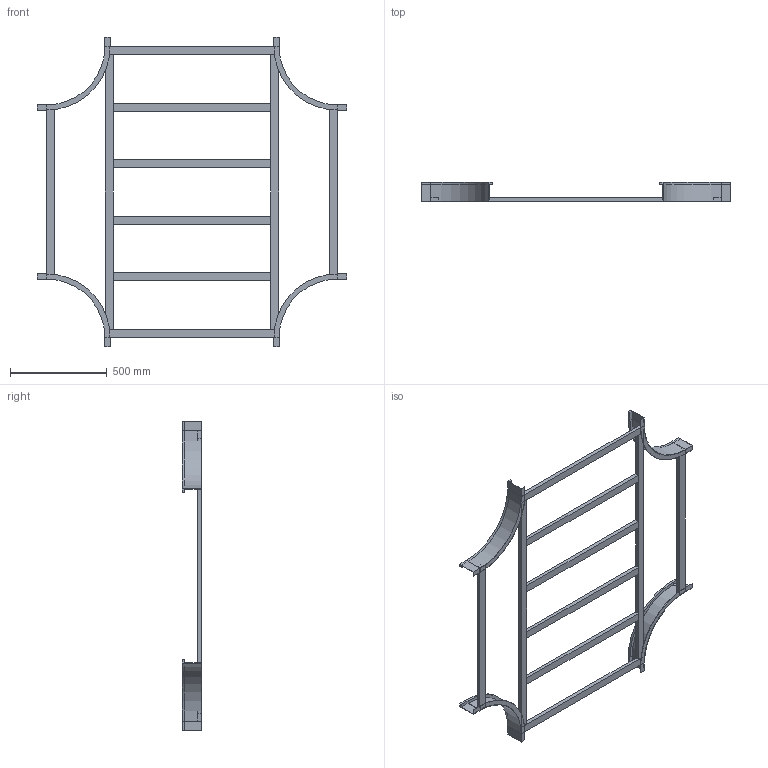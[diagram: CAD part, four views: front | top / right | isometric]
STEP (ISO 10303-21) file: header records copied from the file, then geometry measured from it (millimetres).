
FILE_DESCRIPTION (( 'STEP AP214' ), '1' );
FILE_NAME ('B2_17B3D900.step', '2025-02-21T15:55:56', ( '' ), ( '' ), 'SwSTEP 2.0', 'SolidWorks 2023', '' );
FILE_SCHEMA (( 'AUTOMOTIVE_DESIGN' ));
Length unit declared in the file: millimetre
Products named in the file (5): B2_17B3D900; TRAVERSINO_INTERMEDIO_R300+900; B2_TRAVERSINO_LONG._R300+900; TRAVERSINO_900; B2_LONGH.INTERNO 90°_H100_R300
Assembly tree (14 placements, depth 2):
  B2_17B3D900
    B2_LONGH.INTERNO 90°_H100_R300  x4
    TRAVERSINO_900  x4
    B2_TRAVERSINO_LONG._R300+900  x2
    TRAVERSINO_INTERMEDIO_R300+900  x4
Bounding box: 1600 x 100 x 1600 mm (x, y, z)
Volume: 8870246 mm3; surface area: 1854123.5 mm2
Topology: 14 solids, 14 shells, 164 faces, 344 edges, 208 vertices
Faces by surface type: plane 148, cylinder 16
Entity records: 1370 total; most frequent: DIRECTION 222, CARTESIAN_POINT 209, ORIENTED_EDGE 184, EDGE_CURVE 92, VECTOR 84, LINE 84, AXIS2_PLACEMENT_3D 69, VERTEX_POINT 56
